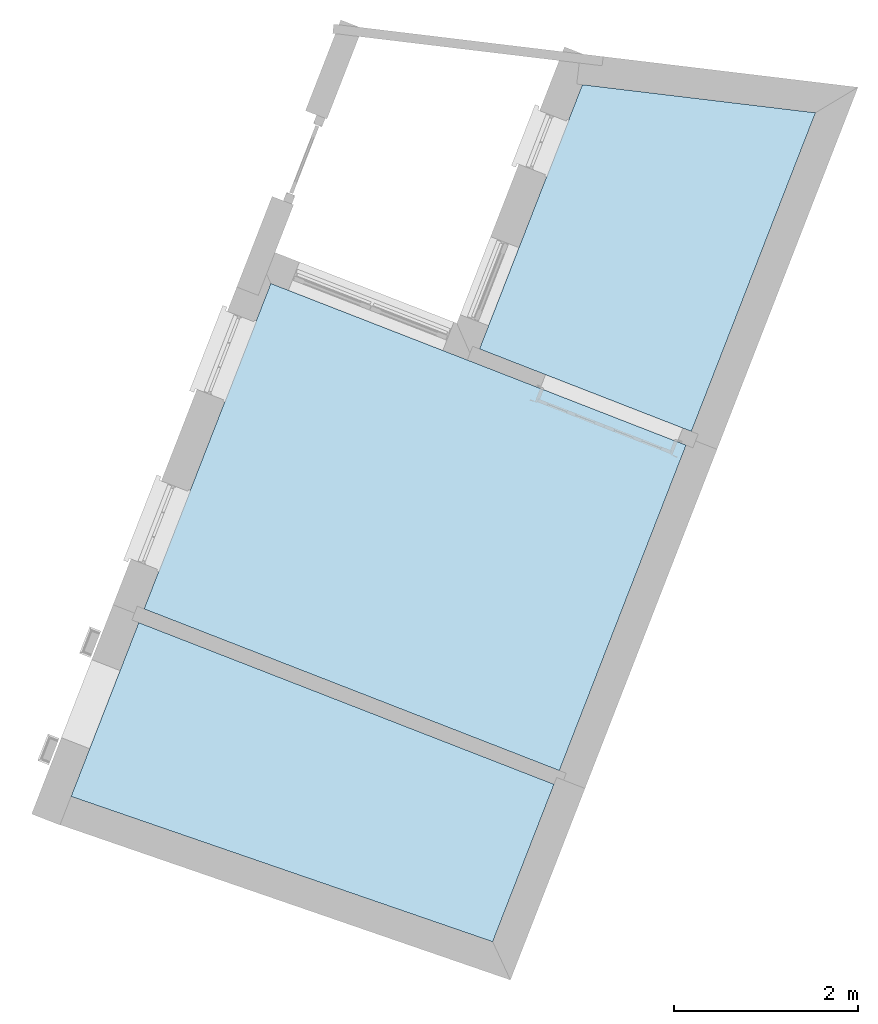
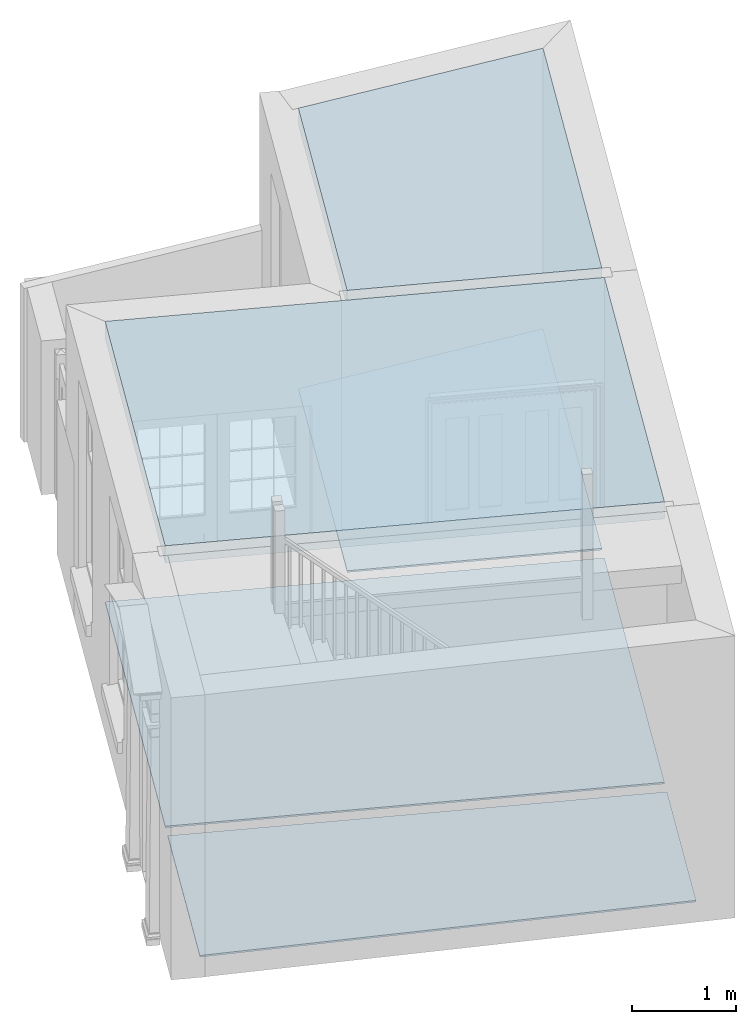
# One storey, part 1 of 6: 5 slabs.
"""IFC4 building model written with IfcOpenShell, lengths in metres."""

from ifc_helpers import new_model, si_unit, frame, origin_with_axes, place, context, subcontext, project, spatial, polyline, outline, extrude, element, save


model = new_model("IFC4")

# Units and contexts
model_context = context("Model", 3, world=origin_with_axes())
body_context = subcontext(model_context, "Body", "Model", "MODEL_VIEW")
ifc_project = project(units=[si_unit("PLANEANGLEUNIT", "RADIAN"), si_unit("MASSUNIT", "GRAM", prefix="KILO"), si_unit("FORCEUNIT", "NEWTON", prefix="KILO"), si_unit("LENGTHUNIT", "METRE"), si_unit("AREAUNIT", "SQUARE_METRE"), si_unit("VOLUMEUNIT", "CUBIC_METRE")], contexts=[model_context, model_context])

# Sites, building, storey
site_1_placement = place(None, origin_with_axes())
site_1 = spatial("IfcSite", under=ifc_project, at=site_1_placement, Name="Tamar")
site_2_placement = place(site_1_placement, origin_with_axes())
site_2 = spatial("IfcSite", under=site_1, at=site_2_placement, Name="Site plot-9", CompositionType="ELEMENT")
building_placement = place(None, origin_with_axes())
building = spatial("IfcBuilding", under=site_2, at=building_placement, Name="Building plot-9", CompositionType="ELEMENT")
storey_placement = place(None, frame((0.0, 0.0, 26.8), z_axis=(0.0, 0.0, 1.0), x_axis=(1.0, 0.0, 0.0)))
storey = spatial("IfcBuildingStorey", under=building, at=storey_placement, Name="plot-9 0", CompositionType="ELEMENT", Elevation=26.8)

# Slabs
slab_1_placement = place(storey_placement, frame((230.406017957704, 319.035429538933, 3.1)))
element("IfcSlab", 1, at=slab_1_placement, inside=storey, Name="My Slab", ObjectType="Slab", PredefinedType="FLOOR", context=body_context, shape_type="SweptSolid", body=[
    extrude(outline(polyline([(0.0, 0.0), (-4.51022104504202, 1.75599149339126), (-5.88635076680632, -1.77856391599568), (-1.3761297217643, -3.53455540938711), (0.0, 0.0)])), origin_with_axes(), (0.0, 0.0, 1.0), 0.2),
])
slab_2_placement = place(storey_placement, frame((230.406017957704, 319.035429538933, 0.0)))
element("IfcSlab", 2, at=slab_2_placement, inside=storey, Name="My Slab", ObjectType="Slab", PredefinedType="FLOOR", context=body_context, shape_type="SweptSolid", body=[
    extrude(outline(polyline([(0.0, 0.0), (-4.51022104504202, 1.75599149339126), (-5.88635076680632, -1.77856391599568), (-1.3761297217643, -3.53455540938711), (0.0, 0.0)])), origin_with_axes(), (0.0, 0.0, 1.0), 0.02),
])
slab_3_placement = place(storey_placement, frame((229.280238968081, 322.950572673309, 3.1)))
element("IfcSlab", 3, at=slab_3_placement, inside=storey, Name="My Slab", ObjectType="Slab", PredefinedType="FLOOR", context=body_context, shape_type="SweptSolid", body=[
    extrude(outline(polyline([(0.0, 0.0), (-1.11742684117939, -2.87008341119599), (1.18382829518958, -3.76604491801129), (2.53146684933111, -0.304668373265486), (0.0, 0.0)])), origin_with_axes(), (0.0, 0.0, 1.0), 0.2),
])
slab_4_placement = place(storey_placement, frame((229.280238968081, 322.950572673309, 0.0)))
element("IfcSlab", 4, at=slab_4_placement, inside=storey, Name="My Slab", ObjectType="Slab", PredefinedType="FLOOR", context=body_context, shape_type="SweptSolid", body=[
    extrude(outline(polyline([(0.0, 0.0), (-1.11742684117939, -2.87008341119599), (1.18382829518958, -3.76604491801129), (2.53146684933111, -0.304668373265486), (0.0, 0.0)])), origin_with_axes(), (0.0, 0.0, 1.0), 0.02),
])
slab_5_placement = place(storey_placement, frame((224.461617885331, 317.107767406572, 0.0)))
element("IfcSlab", 5, at=slab_5_placement, inside=storey, Name="My Slab", ObjectType="Slab", PredefinedType="FLOOR", context=body_context, shape_type="SweptSolid", body=[
    extrude(outline(polyline([(0.0, 0.0), (-0.734966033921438, -1.88774221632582), (3.84438262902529, -3.4661811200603), (4.51022104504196, -1.75599149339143), (0.0, 0.0)])), origin_with_axes(), (0.0, 0.0, 1.0), 0.02),
])

save(model, "model.ifc")
